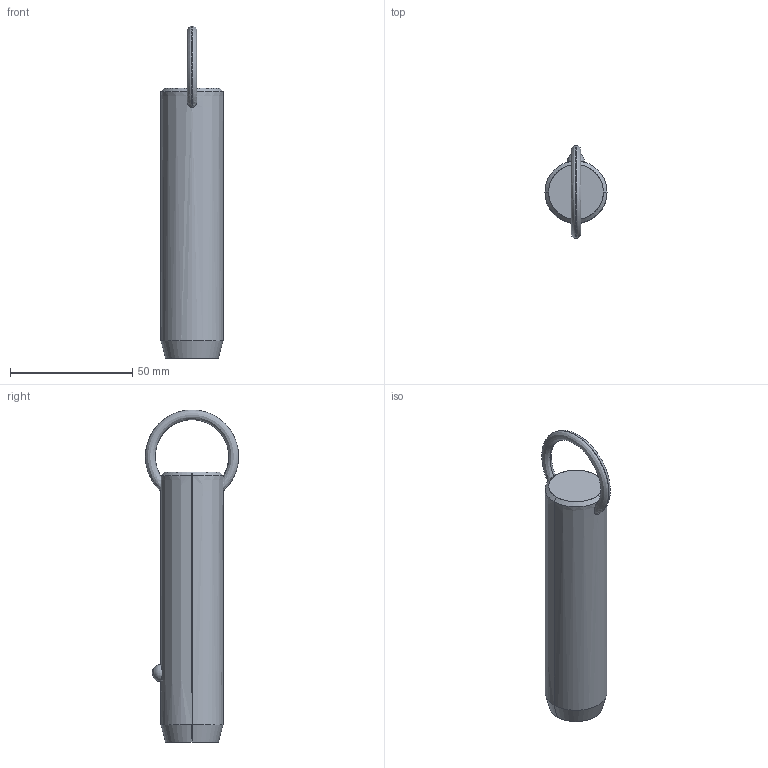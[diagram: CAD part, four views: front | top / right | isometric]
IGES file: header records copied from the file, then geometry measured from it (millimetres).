
Start section: SolidWorks IGES file using analytic representation for surfaces
Global section: file name: C:\Users\liam_\OneDrive\Documents\WORK\Work for WixRoyd\Job Files\J-00019 - Matt Davis CAD Checking\04. CAD Drawings\automotion20190605\P1250.2_v2\P1250.2_v2_20190729_IGES\P1250.100-260.igs; native system: SolidWorks 2017; preprocessor: SolidWorks 2017; author: liam_; date: 190730.173606; units: millimetre
Bounding box: 25.4 x 38.1 x 135.78 mm (x, y, z)
Surface area: 10582.9 mm2 (no closed solid volume)
Topology: 0 solids, 0 shells, 12 faces, 298 edges, 296 vertices
Faces by surface type: revolution 8, bspline 4
